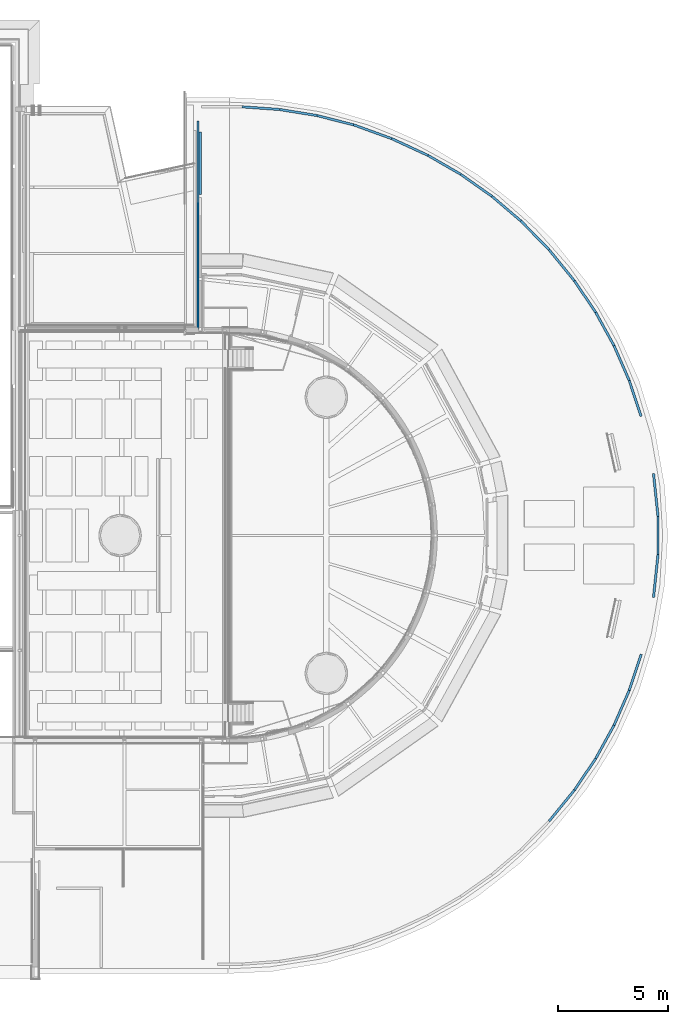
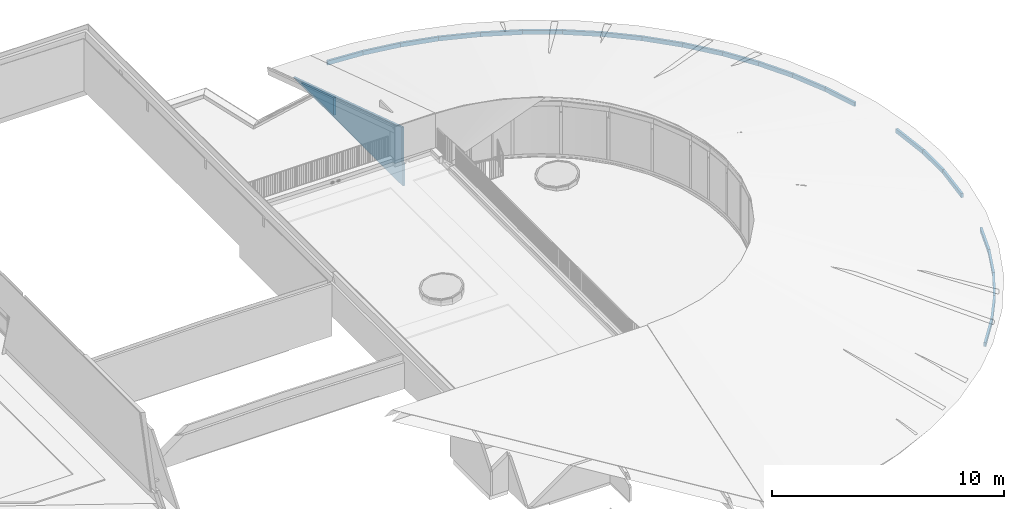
# One storey, part 38 of 66: 24 walls, 1 opening.
"""IFC2X3 building model written with IfcOpenShell, lengths in millimetres."""

from ifc_helpers import new_model, entity, si_unit, converted_unit, derived_unit, direction, frame, frame_2d, origin, place, context, subcontext, project, spatial, polyline, rectangle, outline, extrude, clip, halfspace, material, layer, layer_set, layer_usage, type_object, element, save


model = new_model("IFC2X3")

# Units and contexts
model_context = context("Model", 3, precision=0.01, world=origin(), true_north=direction((6.12303176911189e-17, 1.0)))
body_context = subcontext(model_context, "Body", "Model", "MODEL_VIEW")
ifc_project = project(units=[si_unit("LENGTHUNIT", "METRE", prefix="MILLI"), si_unit("AREAUNIT", "SQUARE_METRE"), si_unit("VOLUMEUNIT", "CUBIC_METRE"), converted_unit("PLANEANGLEUNIT", "DEGREE", entity("IfcRatioMeasure", 0.0174532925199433), si_unit("PLANEANGLEUNIT", "RADIAN"), dimensions=[0, 0, 0, 0, 0, 0, 0]), si_unit("MASSUNIT", "GRAM", prefix="KILO"), derived_unit("MASSDENSITYUNIT", [(si_unit("MASSUNIT", "GRAM", prefix="KILO"), 1), (si_unit("LENGTHUNIT", "METRE"), -3)]), derived_unit("MOMENTOFINERTIAUNIT", [(si_unit("LENGTHUNIT", "METRE"), 4)]), si_unit("TIMEUNIT", "SECOND"), si_unit("FREQUENCYUNIT", "HERTZ"), si_unit("THERMODYNAMICTEMPERATUREUNIT", "DEGREE_CELSIUS"), derived_unit("THERMALTRANSMITTANCEUNIT", [(si_unit("MASSUNIT", "GRAM", prefix="KILO"), 1), (si_unit("THERMODYNAMICTEMPERATUREUNIT", "KELVIN"), -1), (si_unit("TIMEUNIT", "SECOND"), -3)]), derived_unit("VOLUMETRICFLOWRATEUNIT", [(si_unit("LENGTHUNIT", "METRE"), 3), (si_unit("TIMEUNIT", "SECOND"), -1)]), si_unit("ELECTRICCURRENTUNIT", "AMPERE"), si_unit("ELECTRICVOLTAGEUNIT", "VOLT"), si_unit("POWERUNIT", "WATT"), si_unit("FORCEUNIT", "NEWTON", prefix="KILO"), si_unit("ILLUMINANCEUNIT", "LUX"), si_unit("LUMINOUSFLUXUNIT", "LUMEN"), si_unit("LUMINOUSINTENSITYUNIT", "CANDELA"), derived_unit("USERDEFINED", [(si_unit("MASSUNIT", "GRAM", prefix="KILO"), -1), (si_unit("LENGTHUNIT", "METRE"), -2), (si_unit("TIMEUNIT", "SECOND"), 3), (si_unit("LUMINOUSFLUXUNIT", "LUMEN"), 1)]), derived_unit("LINEARVELOCITYUNIT", [(si_unit("LENGTHUNIT", "METRE"), 1), (si_unit("TIMEUNIT", "SECOND"), -1)]), si_unit("PRESSUREUNIT", "PASCAL"), derived_unit("USERDEFINED", [(si_unit("LENGTHUNIT", "METRE"), -2), (si_unit("MASSUNIT", "GRAM", prefix="KILO"), 1), (si_unit("TIMEUNIT", "SECOND"), -2)]), derived_unit("LINEARFORCEUNIT", [(si_unit("MASSUNIT", "GRAM", prefix="KILO"), 1), (si_unit("LENGTHUNIT", "METRE"), 1), (si_unit("TIMEUNIT", "SECOND"), -2), (si_unit("LENGTHUNIT", "METRE"), -1)]), derived_unit("PLANARFORCEUNIT", [(si_unit("MASSUNIT", "GRAM", prefix="KILO"), 1), (si_unit("LENGTHUNIT", "METRE"), 1), (si_unit("TIMEUNIT", "SECOND"), -2), (si_unit("LENGTHUNIT", "METRE"), -2)])], contexts=[model_context])

# Site, building, storey
site_placement = place(None, origin())
site = spatial("IfcSite", under=ifc_project, at=site_placement, Name="Default", CompositionType="ELEMENT")
building_placement = place(site_placement, origin())
building = spatial("IfcBuilding", under=site, at=building_placement, Name="-", CompositionType="ELEMENT")
storey_placement = place(building_placement, frame((0.0, 0.0, 3070.0)))
storey = spatial("IfcBuildingStorey", under=building, at=storey_placement, Name="01 eerste verdieping", CompositionType="ELEMENT", Elevation=3070.00000000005)

# Walls
ifc_material_1 = material(Name="NLRS_f1_kalkzandsteen_CS20")
ifc_layer_1 = layer(ifc_material_1, 120.0)
ifc_layer_set_1 = layer_set([ifc_layer_1], Name="Basic Wall:NLRS_21_WA_kalkzandsteen_120mm_CS20_gen_aly")
ifc_layer_usage_1 = layer_usage(ifc_layer_set_1, "AXIS2", "NEGATIVE", 60.0)
wall_type_1 = type_object("IfcWallType", Name="Basic Wall:NLRS_21_WA_kalkzandsteen_120mm_CS20_gen_aly", PredefinedType="STANDARD", material=ifc_layer_set_1)
wall_1_placement = place(storey_placement, frame((49329.6203901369, 37962.9238406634, 62.0), z_axis=(0.0, 0.0, 1.0), x_axis=(0.0, -1.0, 0.0)))
element("IfcWallStandardCase", 1, at=wall_1_placement, inside=storey, type_object=wall_type_1, material=ifc_layer_usage_1, Name="Basic Wall:NLRS_21_WA_kalkzandsteen_120mm_CS20_gen_aly", ObjectType="Basic Wall:NLRS_21_WA_kalkzandsteen_120mm_CS20_gen_aly", context=body_context, shape_type="Clipping", body=[
    clip(extrude(rectangle(XDim=2833.48075567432, YDim=120.000000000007, at=frame_2d((1416.74037783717, -1.21502807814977e-12), x_axis=(-1.0, 0.0))), origin(), (0.0, 0.0, 1.0), 925.595812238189), halfspace(frame((0.0, -60.0, 0.0), z_axis=(-0.310516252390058, 0.0, 0.950568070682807), x_axis=(0.0, 1.0, 0.0)), False)),
])
ifc_material_2 = material(Name="NLRS_i4_hout_multiplex")
ifc_layer_2 = layer(ifc_material_2, 9.0)
ifc_material_3 = material(Name="NLRS_m1_isolatie")
ifc_layer_3 = layer(ifc_material_3, 89.0)
ifc_layer_4 = layer(ifc_material_2, 9.0)
ifc_layer_set_2 = layer_set([ifc_layer_2, ifc_layer_3, ifc_layer_4], Name="Basic Wall:NLRS_21_WA_HSB-wand_110mm")
ifc_layer_usage_2 = layer_usage(ifc_layer_set_2, "AXIS2", "NEGATIVE", 53.5)
wall_type_2 = type_object("IfcWallType", Name="Basic Wall:NLRS_21_WA_HSB-wand_110mm", PredefinedType="STANDARD", material=ifc_layer_set_2)
wall_2_placement = place(storey_placement, frame((70140.1817552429, 20474.874325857, -370.0), z_axis=(0.0, 0.0, 1.0), x_axis=(0.0, -1.0, 0.0)))
element("IfcWallStandardCase", 2, at=wall_2_placement, inside=storey, type_object=wall_type_2, material=ifc_layer_usage_2, Name="Basic Wall:NLRS_21_WA_HSB-wand_110mm", ObjectType="Basic Wall:NLRS_21_WA_HSB-wand_110mm", context=body_context, shape_type="SweptSolid", body=[
    extrude(outline(polyline([(1712.02156140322, -53.5000000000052), (1717.62919378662, 53.4999999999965), (0.0, 53.4999999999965), (5.60763238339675, -53.5000000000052), (1712.02156140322, -53.5000000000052)])), origin(), (0.0, 0.0, 1.0), 220.000000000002),
])
ifc_layer_usage_3 = layer_usage(ifc_layer_set_2, "AXIS2", "NEGATIVE", 53.5)
wall_3_placement = place(storey_placement, frame((69376.5276232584, 14210.6453910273, -370.0), z_axis=(0.0, 0.0, 1.0), x_axis=(-0.315556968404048, -0.948906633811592, 0.0)))
element("IfcWallStandardCase", 3, at=wall_3_placement, inside=storey, type_object=wall_type_2, material=ifc_layer_usage_3, Name="Basic Wall:NLRS_21_WA_HSB-wand_110mm", ObjectType="Basic Wall:NLRS_21_WA_HSB-wand_110mm", context=body_context, shape_type="SweptSolid", body=[
    extrude(outline(polyline([(1726.07125247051, -53.500000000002), (1730.93009403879, 53.4999999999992), (0.0, 53.4999999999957), (0.0, -53.5000000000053), (1726.07125247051, -53.500000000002)])), origin(), (0.0, 0.0, 1.0), 220.000000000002),
])
ifc_layer_usage_4 = layer_usage(ifc_layer_set_2, "AXIS2", "NEGATIVE", 53.5)
wall_4_placement = place(storey_placement, frame((68832.0595911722, 12572.685960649, -370.0), z_axis=(0.0, 0.0, 1.0), x_axis=(-0.400260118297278, -0.916401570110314, 0.0)))
element("IfcWallStandardCase", 4, at=wall_4_placement, inside=storey, type_object=wall_type_2, material=ifc_layer_usage_4, Name="Basic Wall:NLRS_21_WA_HSB-wand_110mm", ObjectType="Basic Wall:NLRS_21_WA_HSB-wand_110mm", context=body_context, shape_type="SweptSolid", body=[
    extrude(outline(polyline([(1728.14033337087, -53.4999999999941), (1733.00208691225, 53.4999999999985), (0.0, 53.5000000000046), (4.85884156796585, -53.4999999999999), (1728.14033337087, -53.4999999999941)])), origin(), (0.0, 0.0, 1.0), 220.000000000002),
])
ifc_layer_usage_5 = layer_usage(ifc_layer_set_2, "AXIS2", "NEGATIVE", 53.5)
wall_5_placement = place(storey_placement, frame((68140.5519467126, 10988.9180300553, -370.0), z_axis=(0.0, 0.0, 1.0), x_axis=(-0.481716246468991, -0.876327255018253, 0.0)))
element("IfcWallStandardCase", 5, at=wall_5_placement, inside=storey, type_object=wall_type_2, material=ifc_layer_usage_5, Name="Basic Wall:NLRS_21_WA_HSB-wand_110mm", ObjectType="Basic Wall:NLRS_21_WA_HSB-wand_110mm", context=body_context, shape_type="SweptSolid", body=[
    extrude(outline(polyline([(1728.20753061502, -53.5000000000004), (1733.06637218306, 53.500000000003), (0.0, 53.5000000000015), (4.86175354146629, -53.5000000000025), (1728.20753061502, -53.5000000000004)])), origin(), (0.0, 0.0, 1.0), 220.000000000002),
])
ifc_layer_usage_6 = layer_usage(ifc_layer_set_2, "AXIS2", "NEGATIVE", 53.5)
wall_6_placement = place(storey_placement, frame((51228.8403337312, 39109.8175421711, -370.0), z_axis=(0.0, 0.0, 1.0), x_axis=(0.99740710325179, -0.0719657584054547, 0.0)))
element("IfcWallStandardCase", 6, at=wall_6_placement, inside=storey, type_object=wall_type_2, material=ifc_layer_usage_6, Name="Basic Wall:NLRS_21_WA_HSB-wand_110mm", ObjectType="Basic Wall:NLRS_21_WA_HSB-wand_110mm", context=body_context, shape_type="SweptSolid", body=[
    extrude(outline(polyline([(1709.72894820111, -53.4999999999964), (1714.45733567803, 53.5000000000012), (0.0, 53.5000000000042), (3.85516609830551, -53.4999999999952), (1709.72894820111, -53.4999999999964)])), origin(), (0.0, 0.0, 1.0), 220.000000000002),
])
ifc_layer_usage_7 = layer_usage(ifc_layer_set_2, "AXIS2", "NEGATIVE", 53.5)
wall_7_placement = place(storey_placement, frame((52934.160330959, 38986.9829405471, -370.0), z_axis=(0.0, 0.0, 1.0), x_axis=(0.987171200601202, -0.159665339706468, 0.0)))
element("IfcWallStandardCase", 7, at=wall_7_placement, inside=storey, type_object=wall_type_2, material=ifc_layer_usage_7, Name="Basic Wall:NLRS_21_WA_HSB-wand_110mm", ObjectType="Basic Wall:NLRS_21_WA_HSB-wand_110mm", context=body_context, shape_type="SweptSolid", body=[
    extrude(outline(polyline([(1715.63202811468, -53.5000000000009), (1720.36636067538, 53.5000000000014), (0.0, 53.4999999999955), (4.72838747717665, -53.5000000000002), (1715.63202811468, -53.5000000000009)])), origin(), (0.0, 0.0, 1.0), 220.000000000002),
])
ifc_layer_usage_8 = layer_usage(ifc_layer_set_2, "AXIS2", "NEGATIVE", 53.5)
wall_8_placement = place(storey_placement, frame((54627.8253723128, 38713.2608773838, -370.0), z_axis=(0.0, 0.0, 1.0), x_axis=(0.969212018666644, -0.24622766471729, 0.0)))
element("IfcWallStandardCase", 8, at=wall_8_placement, inside=storey, type_object=wall_type_2, material=ifc_layer_usage_8, Name="Basic Wall:NLRS_21_WA_HSB-wand_110mm", ObjectType="Basic Wall:NLRS_21_WA_HSB-wand_110mm", context=body_context, shape_type="SweptSolid", body=[
    extrude(outline(polyline([(1718.05801228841, -53.4999999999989), (1723.31316250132, 53.4999999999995), (0.0, 53.5000000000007), (4.73433256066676, -53.4999999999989), (1718.05801228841, -53.4999999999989)])), origin(), (0.0, 0.0, 1.0), 220.000000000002),
])
ifc_layer_usage_9 = layer_usage(ifc_layer_set_2, "AXIS2", "NEGATIVE", 53.5)
wall_9_placement = place(storey_placement, frame((56293.063501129, 38290.4739022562, -370.0), z_axis=(0.0, 0.0, 1.0), x_axis=(0.940419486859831, -0.340016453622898, 0.0)))
element("IfcWallStandardCase", 9, at=wall_9_placement, inside=storey, type_object=wall_type_2, material=ifc_layer_usage_9, Name="Basic Wall:NLRS_21_WA_HSB-wand_110mm", ObjectType="Basic Wall:NLRS_21_WA_HSB-wand_110mm", context=body_context, shape_type="SweptSolid", body=[
    extrude(outline(polyline([(1843.42440603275, -53.5000000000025), (1848.02847373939, 53.4999999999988), (0.0, 53.4999999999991), (5.25515021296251, -53.5000000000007), (1843.42440603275, -53.5000000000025)])), origin(), (0.0, 0.0, 1.0), 220.000000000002),
])
ifc_layer_usage_10 = layer_usage(ifc_layer_set_2, "AXIS2", "NEGATIVE", 53.5)
wall_10_placement = place(storey_placement, frame((58026.7309718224, 37663.8623394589, -370.0), z_axis=(0.0, 0.0, 1.0), x_axis=(0.907736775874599, -0.419540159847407, 0.0)))
element("IfcWallStandardCase", 10, at=wall_10_placement, inside=storey, type_object=wall_type_2, material=ifc_layer_usage_10, Name="Basic Wall:NLRS_21_WA_HSB-wand_110mm", ObjectType="Basic Wall:NLRS_21_WA_HSB-wand_110mm", context=body_context, shape_type="SweptSolid", body=[
    extrude(outline(polyline([(1814.96751377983, -53.5000000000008), (1819.82635534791, 53.5000000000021), (0.0, 53.5000000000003), (4.60406770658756, -53.5), (1814.96751377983, -53.5000000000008)])), origin(), (0.0, 0.0, 1.0), 220.000000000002),
])
ifc_layer_usage_11 = layer_usage(ifc_layer_set_2, "AXIS2", "NEGATIVE", 53.5)
wall_11_placement = place(storey_placement, frame((59674.3451834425, 36902.6062535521, -370.0), z_axis=(0.0, 0.0, 1.0), x_axis=(0.865976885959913, -0.500084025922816, 0.0)))
element("IfcWallStandardCase", 11, at=wall_11_placement, inside=storey, type_object=wall_type_2, material=ifc_layer_usage_11, Name="Basic Wall:NLRS_21_WA_HSB-wand_110mm", ObjectType="Basic Wall:NLRS_21_WA_HSB-wand_110mm", context=body_context, shape_type="SweptSolid", body=[
    extrude(outline(polyline([(1730.64474665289, -53.4999999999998), (1735.50650019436, 53.4999999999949), (0.0, 53.4999999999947), (4.85884156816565, -53.5000000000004), (1730.64474665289, -53.4999999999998)])), origin(), (0.0, 0.0, 1.0), 220.000000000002),
])
ifc_layer_usage_12 = layer_usage(ifc_layer_set_2, "AXIS2", "NEGATIVE", 53.5)
wall_12_placement = place(storey_placement, frame((61173.1624484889, 36037.324355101, -370.0), z_axis=(0.0, 0.0, 1.0), x_axis=(0.817057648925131, -0.576555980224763, 0.0)))
element("IfcWallStandardCase", 12, at=wall_12_placement, inside=storey, type_object=wall_type_2, material=ifc_layer_usage_12, Name="Basic Wall:NLRS_21_WA_HSB-wand_110mm", ObjectType="Basic Wall:NLRS_21_WA_HSB-wand_110mm", context=body_context, shape_type="SweptSolid", body=[
    extrude(outline(polyline([(1728.20753061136, -53.4999999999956), (1733.06637217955, 53.5000000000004), (0.0, 53.5000000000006), (4.86175354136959, -53.4999999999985), (1728.20753061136, -53.4999999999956)])), origin(), (0.0, 0.0, 1.0), 220.000000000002),
])
ifc_layer_usage_13 = layer_usage(ifc_layer_set_2, "AXIS2", "NEGATIVE", 53.5)
wall_13_placement = place(storey_placement, frame((62585.342748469, 35041.0901071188, -370.0), z_axis=(0.0, 0.0, 1.0), x_axis=(0.761440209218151, -0.648235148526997, 0.0)))
element("IfcWallStandardCase", 13, at=wall_13_placement, inside=storey, type_object=wall_type_2, material=ifc_layer_usage_13, Name="Basic Wall:NLRS_21_WA_HSB-wand_110mm", ObjectType="Basic Wall:NLRS_21_WA_HSB-wand_110mm", context=body_context, shape_type="SweptSolid", body=[
    extrude(outline(polyline([(1728.21152605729, -53.4999999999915), (1733.07036762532, 53.500000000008), (0.0, 53.5000000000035), (4.85884156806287, -53.4999999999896), (1728.21152605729, -53.4999999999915)])), origin(), (0.0, 0.0, 1.0), 220.000000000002),
])
ifc_layer_usage_14 = layer_usage(ifc_layer_set_2, "AXIS2", "NEGATIVE", 53.5)
wall_14_placement = place(storey_placement, frame((63901.422839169, 33920.9638279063, -370.0), z_axis=(0.0, 0.0, 1.0), x_axis=(0.69955520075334, -0.714578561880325, 0.0)))
element("IfcWallStandardCase", 14, at=wall_14_placement, inside=storey, type_object=wall_type_2, material=ifc_layer_usage_14, Name="Basic Wall:NLRS_21_WA_HSB-wand_110mm", ObjectType="Basic Wall:NLRS_21_WA_HSB-wand_110mm", context=body_context, shape_type="SweptSolid", body=[
    extrude(outline(polyline([(1830.50770614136, -53.4999999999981), (1835.36072378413, 53.4999999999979), (0.0, 53.4999999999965), (4.85884156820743, -53.4999999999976), (1830.50770614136, -53.4999999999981)])), origin(), (0.0, 0.0, 1.0), 220.000000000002),
])
ifc_layer_usage_15 = layer_usage(ifc_layer_set_2, "AXIS2", "NEGATIVE", 53.5)
wall_15_placement = place(storey_placement, frame((68831.3229870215, 26661.6700675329, -370.0), z_axis=(0.0, 0.0, 1.0), x_axis=(0.31555696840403, -0.948906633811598, 0.0)))
element("IfcWallStandardCase", 15, at=wall_15_placement, inside=storey, type_object=wall_type_2, material=ifc_layer_usage_15, Name="Basic Wall:NLRS_21_WA_HSB-wand_110mm", ObjectType="Basic Wall:NLRS_21_WA_HSB-wand_110mm", context=body_context, shape_type="SweptSolid", body=[
    extrude(outline(polyline([(1716.75685379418, -53.5000000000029), (1716.75685379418, 53.4999999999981), (0.0, 53.4999999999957), (4.85884156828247, -53.5000000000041), (1716.75685379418, -53.5000000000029)])), origin(), (0.0, 0.0, 1.0), 220.000000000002),
])
ifc_layer_usage_16 = layer_usage(ifc_layer_set_2, "AXIS2", "NEGATIVE", 53.5)
wall_16_placement = place(storey_placement, frame((68138.407970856, 28247.5593307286, -370.0), z_axis=(0.0, 0.0, 1.0), x_axis=(0.400260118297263, -0.916401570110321, 0.0)))
element("IfcWallStandardCase", 16, at=wall_16_placement, inside=storey, type_object=wall_type_2, material=ifc_layer_usage_16, Name="Basic Wall:NLRS_21_WA_HSB-wand_110mm", ObjectType="Basic Wall:NLRS_21_WA_HSB-wand_110mm", context=body_context, shape_type="SweptSolid", body=[
    extrude(outline(polyline([(1730.64765862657, -53.5000000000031), (1735.50650019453, 53.5000000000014), (0.0, 53.4999999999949), (4.86175354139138, -53.5000000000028), (1730.64765862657, -53.5000000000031)])), origin(), (0.0, 0.0, 1.0), 220.000000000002),
])
ifc_layer_usage_17 = layer_usage(ifc_layer_set_2, "AXIS2", "NEGATIVE", 53.5)
wall_17_placement = place(storey_placement, frame((67305.7057190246, 29761.9347245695, -370.0), z_axis=(0.0, 0.0, 1.0), x_axis=(0.481716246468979, -0.87632725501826, 0.0)))
element("IfcWallStandardCase", 17, at=wall_17_placement, inside=storey, type_object=wall_type_2, material=ifc_layer_usage_17, Name="Basic Wall:NLRS_21_WA_HSB-wand_110mm", ObjectType="Basic Wall:NLRS_21_WA_HSB-wand_110mm", context=body_context, shape_type="SweptSolid", body=[
    extrude(outline(polyline([(1728.2046186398, -53.5000000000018), (1733.06637218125, 53.500000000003), (0.0, 53.5000000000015), (4.85884156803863, -53.5000000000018), (1728.2046186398, -53.5000000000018)])), origin(), (0.0, 0.0, 1.0), 220.000000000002),
])
ifc_layer_usage_18 = layer_usage(ifc_layer_set_2, "AXIS2", "NEGATIVE", 53.5)
wall_18_placement = place(storey_placement, frame((66339.1751545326, 31194.6134584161, -370.0), z_axis=(0.0, 0.0, 1.0), x_axis=(0.559157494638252, -0.829061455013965, 0.0)))
element("IfcWallStandardCase", 18, at=wall_18_placement, inside=storey, type_object=wall_type_2, material=ifc_layer_usage_18, Name="Basic Wall:NLRS_21_WA_HSB-wand_110mm", ObjectType="Basic Wall:NLRS_21_WA_HSB-wand_110mm", context=body_context, shape_type="SweptSolid", body=[
    extrude(outline(polyline([(1728.21152605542, -53.5000000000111), (1733.07036762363, 53.4999999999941), (0.0, 53.4999999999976), (4.85884156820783, -53.5000000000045), (1728.21152605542, -53.5000000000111)])), origin(), (0.0, 0.0, 1.0), 220.000000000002),
])
ifc_layer_usage_19 = layer_usage(ifc_layer_set_2, "AXIS2", "NEGATIVE", 53.5)
wall_19_placement = place(storey_placement, frame((65182.1279575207, 32613.0688076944, -370.0), z_axis=(0.0, 0.0, 1.0), x_axis=(0.631996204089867, -0.774971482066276, 0.0)))
element("IfcWallStandardCase", 19, at=wall_19_placement, inside=storey, type_object=wall_type_2, material=ifc_layer_usage_19, Name="Basic Wall:NLRS_21_WA_HSB-wand_110mm", ObjectType="Basic Wall:NLRS_21_WA_HSB-wand_110mm", context=body_context, shape_type="SweptSolid", body=[
    extrude(outline(polyline([(1830.50188221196, -53.4999999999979), (1835.36072377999, 53.5000000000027), (0.0, 53.5000000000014), (4.85301764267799, -53.5000000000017), (1830.50188221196, -53.4999999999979)])), origin(), (0.0, 0.0, 1.0), 220.000000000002),
])
ifc_layer_usage_20 = layer_usage(ifc_layer_set_2, "AXIS2", "NEGATIVE", 53.5)
wall_20_placement = place(storey_placement, frame((69933.3475292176, 22439.9667176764, -370.0), z_axis=(0.0, 0.0, 1.0), x_axis=(0.104528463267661, -0.994521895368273, 0.0)))
element("IfcWallStandardCase", 20, at=wall_20_placement, inside=storey, type_object=wall_type_2, material=ifc_layer_usage_20, Name="Basic Wall:NLRS_21_WA_HSB-wand_110mm", ObjectType="Basic Wall:NLRS_21_WA_HSB-wand_110mm", context=body_context, shape_type="SweptSolid", body=[
    extrude(outline(polyline([(1975.93211428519, -53.4999999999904), (1981.53974666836, 53.5000000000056), (0.0, 53.5000000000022), (0.0, -53.4999999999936), (1975.93211428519, -53.4999999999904)])), origin(), (0.0, 0.0, 1.0), 220.000000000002),
])
ifc_layer_usage_21 = layer_usage(ifc_layer_set_2, "AXIS2", "NEGATIVE", 53.5)
wall_21_placement = place(storey_placement, frame((70140.4748338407, 18762.8374048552, -370.0), z_axis=(0.0, 0.0, 1.0), x_axis=(-0.104528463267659, -0.994521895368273, 0.0)))
element("IfcWallStandardCase", 21, at=wall_21_placement, inside=storey, type_object=wall_type_2, material=ifc_layer_usage_21, Name="Basic Wall:NLRS_21_WA_HSB-wand_110mm", ObjectType="Basic Wall:NLRS_21_WA_HSB-wand_110mm", context=body_context, shape_type="SweptSolid", body=[
    extrude(outline(polyline([(1980.70457282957, -53.4999999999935), (1980.70457282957, 53.5000000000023), (0.0, 53.5000000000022), (5.60763238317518, -53.4999999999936), (1980.70457282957, -53.4999999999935)])), origin(), (0.0, 0.0, 1.0), 220.000000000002),
])
ifc_layer_usage_22 = layer_usage(ifc_layer_set_2, "AXIS2", "NEGATIVE", 53.5)
wall_22_placement = place(storey_placement, frame((67308.2344393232, 9474.32784013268, -370.0), z_axis=(0.0, 0.0, 1.0), x_axis=(-0.559157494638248, -0.829061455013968, 0.0)))
element("IfcWallStandardCase", 22, at=wall_22_placement, inside=storey, type_object=wall_type_2, material=ifc_layer_usage_22, Name="Basic Wall:NLRS_21_WA_HSB-wand_110mm", ObjectType="Basic Wall:NLRS_21_WA_HSB-wand_110mm", context=body_context, shape_type="SweptSolid", body=[
    extrude(outline(polyline([(1728.21152605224, -53.5000000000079), (1733.07036762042, 53.499999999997), (0.0, 53.4999999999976), (4.8588415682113, -53.500000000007), (1728.21152605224, -53.5000000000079)])), origin(), (0.0, 0.0, 1.0), 220.000000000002),
])
ifc_layer_usage_23 = layer_usage(ifc_layer_set_2, "AXIS2", "NEGATIVE", 53.5)
wall_23_placement = place(storey_placement, frame((66342.0689680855, 8041.4028704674, -370.0), z_axis=(0.0, 0.0, 1.0), x_axis=(-0.63199620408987, -0.774971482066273, 0.0)))
element("IfcWallStandardCase", 23, at=wall_23_placement, inside=storey, type_object=wall_type_2, material=ifc_layer_usage_23, Name="Basic Wall:NLRS_21_WA_HSB-wand_110mm", ObjectType="Basic Wall:NLRS_21_WA_HSB-wand_110mm", context=body_context, shape_type="SweptSolid", body=[
    extrude(outline(polyline([(1830.50770613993, -53.5000000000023), (1835.3607237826, 53.5000000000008), (0.0, 53.5000000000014), (4.85884156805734, -53.5000000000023), (1830.50770613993, -53.5000000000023)])), origin(), (0.0, 0.0, 1.0), 220.000000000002),
])

# Wall, opening
ifc_material_4 = material(Name="NLRS_n7_Kooltherm Resol hardschuim 0.02 (0.1)_Kingspan")
ifc_layer_5 = layer(ifc_material_4, 105.0)
ifc_layer_set_3 = layer_set([ifc_layer_5], Name="Basic Wall:NLRS_22_WA_LB_isolatie Kooltherm K8 105mm_Kingspan_BO")
ifc_layer_usage_24 = layer_usage(ifc_layer_set_3, "AXIS2", "NEGATIVE", 52.5)
wall_type_3 = type_object("IfcWallType", Name="Basic Wall:NLRS_22_WA_LB_isolatie Kooltherm K8 105mm_Kingspan_BO", PredefinedType="STANDARD", material=ifc_layer_set_3)
wall_24_placement = place(storey_placement, frame((49217.1203901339, 38461.042904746, 100.0), z_axis=(0.0, 0.0, 1.0), x_axis=(0.0, -1.0, 0.0)))
wall_24 = element("IfcWallStandardCase", 24, at=wall_24_placement, inside=storey, type_object=wall_type_3, material=ifc_layer_usage_24, Name="Basic Wall:NLRS_22_WA_LB_isolatie Kooltherm K8 105mm_Kingspan_BO", ObjectType="Basic Wall:NLRS_22_WA_LB_isolatie Kooltherm K8 105mm_Kingspan_BO", context=body_context, shape_type="Clipping", body=[
    clip(clip(extrude(rectangle(XDim=9470.08612229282, YDim=104.999999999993, at=frame_2d((4735.0430611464, 3.16191517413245e-13), x_axis=(-1.0, 0.0))), origin(), (0.0, 0.0, 1.0), 3046.46251928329), halfspace(frame((0.0, -52.5000000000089, 0.0), z_axis=(-0.309016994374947, 0.0, 0.951056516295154), x_axis=(0.0, 1.0, 0.0)), False)), halfspace(frame((9470.08612229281, 0.0, 1200.0), z_axis=(0.998705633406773, 0.0, 0.0508631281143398), x_axis=(0.0, 1.0, 0.0)), False)),
])
opening_placement = place(wall_24_placement, origin())
element("IfcOpeningElement", 25, at=opening_placement, cuts=wall_24, Name="Basic Wall:NLRS_22_WA_LB_isolatie Kooltherm K8 105mm_Kingspan_BO", ObjectType="Opening", context=body_context, shape_type="SweptSolid", body=[
    extrude(outline(polyline([(-617.879570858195, -31.3056198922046), (1230.97604537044, -31.3056198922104), (-613.096474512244, 62.6112397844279), (-617.879570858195, -31.3056198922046)])), frame((9407.39373557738, 52.4999999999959, 1815.48750642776), z_axis=(0.0, -1.0, 0.0), x_axis=(-0.0508631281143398, 0.0, 0.998705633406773)), (0.0, 0.0, 1.0), 105.0),
])

save(model, "model.ifc")
